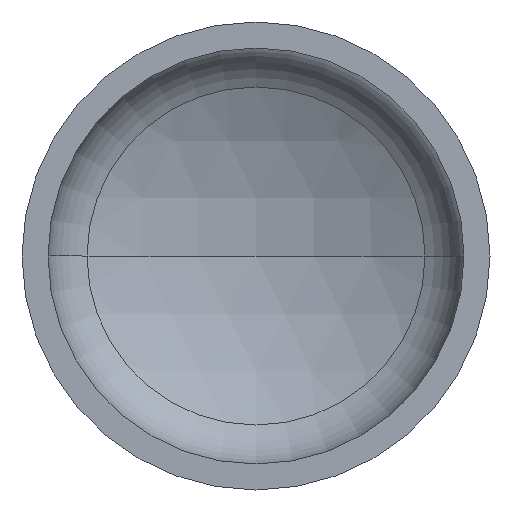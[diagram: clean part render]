
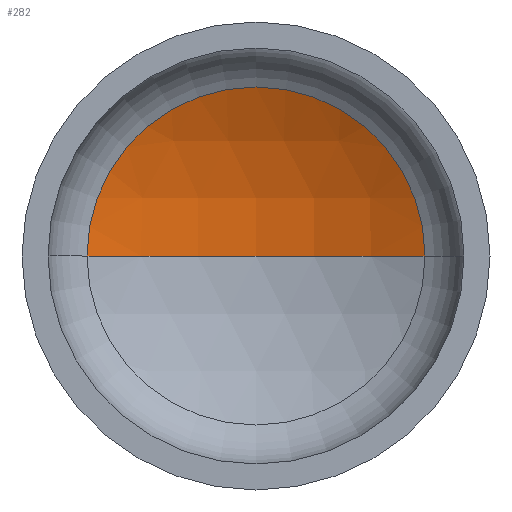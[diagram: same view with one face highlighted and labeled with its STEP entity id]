
A CAD part, front view. The second image highlights one B-rep face of the part: STEP entity #282.
In plain terms, the highlighted spherical face has radius 254 mm.
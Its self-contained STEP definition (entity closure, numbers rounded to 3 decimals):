
#14 = EDGE_LOOP ( 'NONE', ( #251, #74, #127 ) ) ;
#22 = CARTESIAN_POINT ( 'NONE',  ( 0., -126.078, 0. ) ) ;
#27 = DIRECTION ( 'NONE',  ( 0., 0., -1. ) ) ;
#28 = VERTEX_POINT ( 'NONE', #260 ) ;
#64 = AXIS2_PLACEMENT_3D ( 'NONE', #22, #27, #141 ) ;
#74 = ORIENTED_EDGE ( 'NONE', *, *, #228, .T. ) ;
#76 = AXIS2_PLACEMENT_3D ( 'NONE', #378, #391, #388 ) ;
#94 = AXIS2_PLACEMENT_3D ( 'NONE', #252, #249, #188 ) ;
#99 = VERTEX_POINT ( 'NONE', #248 ) ;
#101 = AXIS2_PLACEMENT_3D ( 'NONE', #261, #275, #274 ) ;
#112 = VERTEX_POINT ( 'NONE', #255 ) ;
#127 = ORIENTED_EDGE ( 'NONE', *, *, #211, .T. ) ;
#141 = DIRECTION ( 'NONE',  ( -1., 0., 0. ) ) ;
#188 = DIRECTION ( 'NONE',  ( -1., 0., 0. ) ) ;
#204 = CIRCLE ( 'NONE', #76, 254. ) ;
#211 = EDGE_CURVE ( 'NONE', #112, #99, #215, .T. ) ;
#215 = CIRCLE ( 'NONE', #101, 116.977 ) ;
#228 = EDGE_CURVE ( 'NONE', #28, #112, #340, .T. ) ;
#242 = EDGE_CURVE ( 'NONE', #28, #99, #204, .T. ) ;
#248 = CARTESIAN_POINT ( 'NONE',  ( -116.977, 99.382, 0. ) ) ;
#249 = DIRECTION ( 'NONE',  ( 0., 0., -1. ) ) ;
#251 = ORIENTED_EDGE ( 'NONE', *, *, #242, .F. ) ;
#252 = CARTESIAN_POINT ( 'NONE',  ( 0., -126.078, 0. ) ) ;
#255 = CARTESIAN_POINT ( 'NONE',  ( 116.977, 99.382, 0. ) ) ;
#260 = CARTESIAN_POINT ( 'NONE',  ( 0., 127.922, 0. ) ) ;
#261 = CARTESIAN_POINT ( 'NONE',  ( 0., 99.382, 0. ) ) ;
#264 = FACE_OUTER_BOUND ( 'NONE', #14, .T. ) ;
#274 = DIRECTION ( 'NONE',  ( 1., 0., 0. ) ) ;
#275 = DIRECTION ( 'NONE',  ( 0., -1., 0. ) ) ;
#282 = ADVANCED_FACE ( 'NONE', ( #264 ), #330, .F. ) ;
#330 = SPHERICAL_SURFACE ( 'NONE', #64, 254. ) ;
#340 = CIRCLE ( 'NONE', #94, 254. ) ;
#378 = CARTESIAN_POINT ( 'NONE',  ( 0., -126.078, 0. ) ) ;
#388 = DIRECTION ( 'NONE',  ( 1., 0., 0. ) ) ;
#391 = DIRECTION ( 'NONE',  ( 0., 0., 1. ) ) ;
